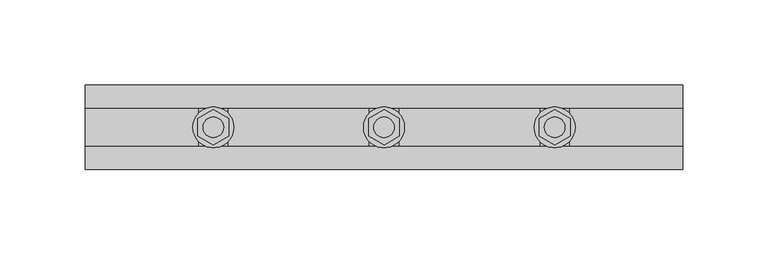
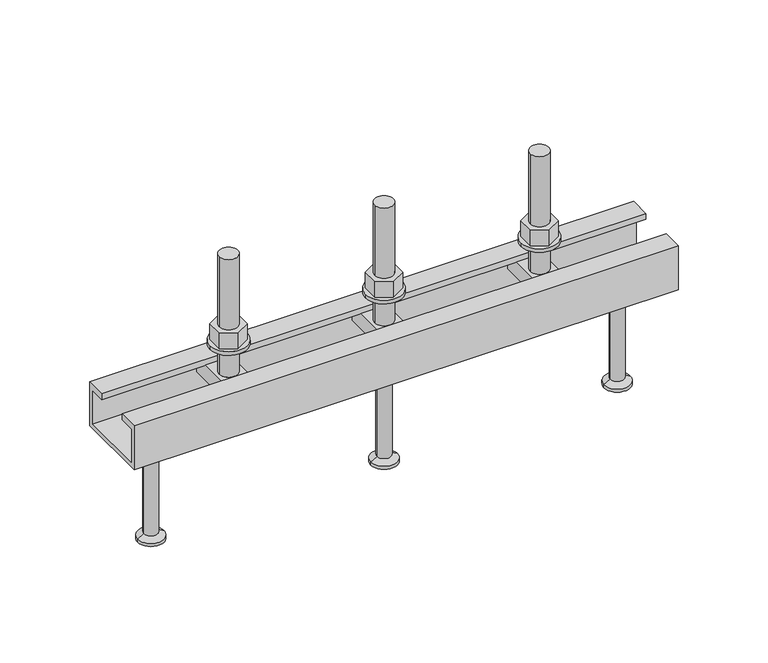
"""IFC4 building model written with IfcOpenShell, lengths in millimetres: fastener geometry, JTA-W JORDAHL® AnchorChannels : JTA-W L=350 mm."""

from ifc_helpers import new_model, si_unit, point, frame, frame_2d, origin, place, context, project, spatial, polyline, circle_curve, trimmed, segment, composite_curve, outline, extrude, source, transform, mapped, element, save
from ifc_brep_helpers import plane_surface, cylinder_surface, revolved_surface, advanced_brep


def fastener_be18af22(model_context):
    return source(origin(), model_context, "Body", "SolidModel", [
        extrude(outline(polyline([(175.0, -10.3923048), (166.0, -5.1961524), (166.0, 5.1961524), (175.0, 10.3923048), (184.0, 5.1961524), (184.0, -5.1961524), (175.0, -10.3923048)]), holes=[composite_curve([segment(trimmed(circle_curve(frame_2d((175.0, 0.0)), 6.0), [point((169.0, 0.0))], [point((181.0, 0.0))], True, "CARTESIAN"), True, "CONTINUOUS"), segment(trimmed(circle_curve(frame_2d((175.0, 0.0)), 6.0), [point((181.0, 0.0))], [point((169.0, 0.0))], True, "CARTESIAN"), True, "CONTINUOUS")], self_intersect=False)]), frame((0.0, 0.0, 17.5), z_axis=(0.0, 0.0, 1.0), x_axis=(1.0, 0.0, 0.0)), (0.0, 0.0, 1.0), 10.8),
        extrude(outline(composite_curve([segment(trimmed(circle_curve(frame_2d((175.0, 0.0)), 12.0), [point((163.0, 0.0))], [point((187.0, 0.0))], False, "CARTESIAN"), True, "CONTINUOUS"), segment(trimmed(circle_curve(frame_2d((175.0, 0.0)), 12.0), [point((187.0, 0.0))], [point((163.0, 0.0))], False, "CARTESIAN"), True, "CONTINUOUS")], self_intersect=False), holes=[composite_curve([segment(trimmed(circle_curve(frame_2d((175.0, 0.0)), 6.5), [point((168.5, 0.0))], [point((181.5, 0.0))], True, "CARTESIAN"), True, "CONTINUOUS"), segment(trimmed(circle_curve(frame_2d((175.0, 0.0)), 6.5), [point((181.5, 0.0))], [point((168.5, 0.0))], True, "CARTESIAN"), True, "CONTINUOUS")], self_intersect=False)]), frame((0.0, 0.0, 15.0), z_axis=(0.0, 0.0, 1.0), x_axis=(1.0, 0.0, 0.0)), (0.0, 0.0, 1.0), 2.5),
        advanced_brep(
        [(183.5, -20.7, -4.0), (183.5, -20.7, -14.0), (183.5, 20.7, -14.0), (183.5, 20.7, -4.0), (166.5, -20.7, -4.0), (166.5, 20.7, -4.0), (166.5, 20.7, -14.0), (166.5, -20.7, -14.0), (181.0, 0.0, -4.0), (169.0, 0.0, -4.0), (169.0, 0.0, 76.0), (181.0, 0.0, 76.0)],
        [
            (0, 1),
            (1, 2),
            (2, 3),
            (3, 0),
            (4, 5),
            (5, 6),
            (6, 7),
            (7, 4),
            (3, 5),
            (4, 0),
            (8, 9, circle_curve(frame((175.0, 0.0, -4.0), z_axis=(0.0, 0.0, -1.0), x_axis=(1.0, 0.0, 0.0)), 6.0)),
            (9, 8, circle_curve(frame((175.0, 0.0, -4.0), z_axis=(0.0, 0.0, -1.0), x_axis=(1.0, 0.0, 0.0)), 6.0)),
            (2, 6),
            (1, 7),
            (10, 11, circle_curve(frame((175.0, 0.0, 76.0), z_axis=(0.0, 0.0, 1.0), x_axis=(1.0, 0.0, 0.0)), 6.0)),
            (11, 10, circle_curve(frame((175.0, 0.0, 76.0), z_axis=(0.0, 0.0, 1.0), x_axis=(1.0, 0.0, 0.0)), 6.0)),
            (11, 8),
            (9, 10),
        ],
        [
            plane_surface(frame((183.5, 20.7, -4.0), z_axis=(1.0, 0.0, 0.0), x_axis=(0.0, 1.0, 0.0))),
            plane_surface(frame((166.5, 20.7, -4.0), z_axis=(-1.0, 0.0, 0.0), x_axis=(0.0, -1.0, 0.0))),
            plane_surface(frame((183.5, -20.7, -4.0), z_axis=(0.0, 0.0, 1.0), x_axis=(-1.0, 0.0, 0.0))),
            plane_surface(frame((183.5, 20.7, -4.0), z_axis=(0.0, 1.0, 0.0), x_axis=(-1.0, 0.0, 0.0))),
            plane_surface(frame((183.5, 20.7, -14.0), z_axis=(0.0, 0.0, -1.0), x_axis=(-1.0, 0.0, 0.0))),
            plane_surface(frame((183.5, -20.7, -14.0), z_axis=(0.0, -1.0, 0.0), x_axis=(-1.0, 0.0, 0.0))),
            plane_surface(frame((181.0, 0.0, 76.0), z_axis=(0.0, 0.0, 1.0), x_axis=(0.0, -1.0, 0.0))),
            cylinder_surface(frame((175.0, 0.0, -4.0), z_axis=(0.0, 0.0, 1.0), x_axis=(1.0, 0.0, 0.0)), 6.0),
        ],
        [
            (0, [[1, 2, 3, 4]]),
            (1, [[5, 6, 7, 8]]),
            (2, [[9, -5, 10, -4], [11, 12]]),
            (3, [[13, -6, -9, -3]]),
            (4, [[14, -7, -13, -2]]),
            (5, [[-10, -8, -14, -1]]),
            (6, [[15, 16]]),
            (7, [[17, -12, 18, -16]]),
            (7, [[-18, -11, -17, -15]]),
        ],
    ),
        advanced_brep(
        [(175.0, 0.0, -30.0), (161.5, 0.0, -30.0), (188.5, 0.0, -30.0), (166.5, 0.0, -100.0), (175.0, 0.0, -100.0), (183.5, 0.0, -100.0), (166.5, 0.0, -98.0), (183.5, 0.0, -98.0), (170.5, 0.0, -95.6905989), (179.5, 0.0, -95.6905989), (170.5, 0.0, -32.5), (179.5, 0.0, -32.5)],
        [
            (0, 1),
            (1, 2, circle_curve(frame((175.0, 0.0, -30.0), z_axis=(0.0, 0.0, 1.0), x_axis=(1.0, 0.0, 0.0)), 13.5)),
            (2, 0),
            (2, 1, circle_curve(frame((175.0, 0.0, -30.0), z_axis=(0.0, 0.0, 1.0), x_axis=(1.0, 0.0, 0.0)), 13.5)),
            (3, 4),
            (4, 5),
            (5, 3, circle_curve(frame((175.0, 0.0, -100.0), z_axis=(0.0, 0.0, -1.0), x_axis=(1.0, 0.0, 0.0)), 8.5)),
            (3, 5, circle_curve(frame((175.0, 0.0, -100.0), z_axis=(0.0, 0.0, -1.0), x_axis=(1.0, 0.0, 0.0)), 8.5)),
            (6, 3),
            (5, 7),
            (7, 6, circle_curve(frame((175.0, 0.0, -98.0), z_axis=(0.0, 0.0, -1.0), x_axis=(1.0, 0.0, 0.0)), 8.5)),
            (6, 7, circle_curve(frame((175.0, 0.0, -98.0), z_axis=(0.0, 0.0, -1.0), x_axis=(1.0, 0.0, 0.0)), 8.5)),
            (8, 6),
            (7, 9),
            (9, 8, circle_curve(frame((175.0, 0.0, -95.6905989), z_axis=(0.0, 0.0, -1.0), x_axis=(1.0, 0.0, 0.0)), 4.5)),
            (8, 9, circle_curve(frame((175.0, 0.0, -95.6905989), z_axis=(0.0, 0.0, -1.0), x_axis=(1.0, 0.0, 0.0)), 4.5)),
            (10, 8),
            (9, 11),
            (11, 10, circle_curve(frame((175.0, 0.0, -32.5), z_axis=(0.0, 0.0, -1.0), x_axis=(1.0, 0.0, 0.0)), 4.5)),
            (10, 11, circle_curve(frame((175.0, 0.0, -32.5), z_axis=(0.0, 0.0, -1.0), x_axis=(1.0, 0.0, 0.0)), 4.5)),
            (1, 10),
            (11, 2),
        ],
        [
            plane_surface(frame((175.0, 0.0, -30.0), z_axis=(0.0, 0.0, 1.0), x_axis=(1.0, 0.0, 0.0))),
            plane_surface(frame((175.0, 0.0, -100.0), z_axis=(0.0, 0.0, -1.0), x_axis=(1.0, 0.0, 0.0))),
            cylinder_surface(frame((175.0, 0.0, 2284.3150031), z_axis=(0.0, 0.0, 1.0), x_axis=(1.0, 0.0, 0.0)), 8.5),
            revolved_surface(polyline([(183.5, 0.0, -98.0), (179.5, 0.0, -95.6905989)]), (175.0, 0.0, 2284.3150031), (0.0, 0.0, 1.0)),
            cylinder_surface(frame((175.0, 0.0, 2284.3150031), z_axis=(0.0, 0.0, 1.0), x_axis=(1.0, 0.0, 0.0)), 4.5),
            revolved_surface(polyline([(179.5, 0.0, -32.5), (188.5, 0.0, -30.0)]), (175.0, 0.0, 2284.3150031), (0.0, 0.0, 1.0)),
        ],
        [
            (0, [[1, 2, 3]]),
            (0, [[-3, 4, -1]]),
            (1, [[5, 6, 7]]),
            (1, [[-6, -5, 8]]),
            (2, [[9, -7, 10, 11]]),
            (2, [[-10, -8, -9, 12]]),
            (3, [[13, -11, 14, 15]]),
            (3, [[-14, -12, -13, 16]]),
            (4, [[17, -15, 18, 19]]),
            (4, [[-18, -16, -17, 20]]),
            (5, [[21, -19, 22, -2]]),
            (5, [[-22, -20, -21, -4]]),
        ],
    ),
        extrude(outline(polyline([(275.0, -10.3923048), (266.0, -5.1961524), (266.0, 5.1961524), (275.0, 10.3923048), (284.0, 5.1961524), (284.0, -5.1961524), (275.0, -10.3923048)]), holes=[composite_curve([segment(trimmed(circle_curve(frame_2d((275.0, 0.0)), 6.0), [point((269.0, 0.0))], [point((281.0, 0.0))], True, "CARTESIAN"), True, "CONTINUOUS"), segment(trimmed(circle_curve(frame_2d((275.0, 0.0)), 6.0), [point((281.0, 0.0))], [point((269.0, 0.0))], True, "CARTESIAN"), True, "CONTINUOUS")], self_intersect=False)]), frame((0.0, 0.0, 17.5), z_axis=(0.0, 0.0, 1.0), x_axis=(1.0, 0.0, 0.0)), (0.0, 0.0, 1.0), 10.8),
        extrude(outline(composite_curve([segment(trimmed(circle_curve(frame_2d((275.0, 0.0)), 12.0), [point((263.0, 0.0))], [point((287.0, 0.0))], False, "CARTESIAN"), True, "CONTINUOUS"), segment(trimmed(circle_curve(frame_2d((275.0, 0.0)), 12.0), [point((287.0, 0.0))], [point((263.0, 0.0))], False, "CARTESIAN"), True, "CONTINUOUS")], self_intersect=False), holes=[composite_curve([segment(trimmed(circle_curve(frame_2d((275.0, 0.0)), 6.5), [point((268.5, 0.0))], [point((281.5, 0.0))], True, "CARTESIAN"), True, "CONTINUOUS"), segment(trimmed(circle_curve(frame_2d((275.0, 0.0)), 6.5), [point((281.5, 0.0))], [point((268.5, 0.0))], True, "CARTESIAN"), True, "CONTINUOUS")], self_intersect=False)]), frame((0.0, 0.0, 15.0), z_axis=(0.0, 0.0, 1.0), x_axis=(1.0, 0.0, 0.0)), (0.0, 0.0, 1.0), 2.5),
        extrude(outline(polyline([(75.0, -10.3923048), (66.0, -5.1961524), (66.0, 5.1961524), (75.0, 10.3923048), (84.0, 5.1961524), (84.0, -5.1961524), (75.0, -10.3923048)]), holes=[composite_curve([segment(trimmed(circle_curve(frame_2d((75.0, 0.0)), 6.0), [point((69.0, 0.0))], [point((81.0, 0.0))], True, "CARTESIAN"), True, "CONTINUOUS"), segment(trimmed(circle_curve(frame_2d((75.0, 0.0)), 6.0), [point((81.0, 0.0))], [point((69.0, 0.0))], True, "CARTESIAN"), True, "CONTINUOUS")], self_intersect=False)]), frame((0.0, 0.0, 17.5), z_axis=(0.0, 0.0, 1.0), x_axis=(1.0, 0.0, 0.0)), (0.0, 0.0, 1.0), 10.8),
        extrude(outline(composite_curve([segment(trimmed(circle_curve(frame_2d((75.0, 0.0)), 12.0), [point((63.0, 0.0))], [point((87.0, 0.0))], False, "CARTESIAN"), True, "CONTINUOUS"), segment(trimmed(circle_curve(frame_2d((75.0, 0.0)), 12.0), [point((87.0, 0.0))], [point((63.0, 0.0))], False, "CARTESIAN"), True, "CONTINUOUS")], self_intersect=False), holes=[composite_curve([segment(trimmed(circle_curve(frame_2d((75.0, 0.0)), 6.5), [point((68.5, 0.0))], [point((81.5, 0.0))], True, "CARTESIAN"), True, "CONTINUOUS"), segment(trimmed(circle_curve(frame_2d((75.0, 0.0)), 6.5), [point((81.5, 0.0))], [point((68.5, 0.0))], True, "CARTESIAN"), True, "CONTINUOUS")], self_intersect=False)]), frame((0.0, 0.0, 15.0), z_axis=(0.0, 0.0, 1.0), x_axis=(1.0, 0.0, 0.0)), (0.0, 0.0, 1.0), 2.5),
        advanced_brep(
        [(283.5, -20.7, -4.0), (283.5, -20.7, -14.0), (283.5, 20.7, -14.0), (283.5, 20.7, -4.0), (266.5, -20.7, -4.0), (266.5, 20.7, -4.0), (266.5, 20.7, -14.0), (266.5, -20.7, -14.0), (281.0, 0.0, -4.0), (269.0, 0.0, -4.0), (269.0, 0.0, 76.0), (281.0, 0.0, 76.0)],
        [
            (0, 1),
            (1, 2),
            (2, 3),
            (3, 0),
            (4, 5),
            (5, 6),
            (6, 7),
            (7, 4),
            (3, 5),
            (4, 0),
            (8, 9, circle_curve(frame((275.0, 0.0, -4.0), z_axis=(0.0, 0.0, -1.0), x_axis=(1.0, 0.0, 0.0)), 6.0)),
            (9, 8, circle_curve(frame((275.0, 0.0, -4.0), z_axis=(0.0, 0.0, -1.0), x_axis=(1.0, 0.0, 0.0)), 6.0)),
            (2, 6),
            (1, 7),
            (10, 11, circle_curve(frame((275.0, 0.0, 76.0), z_axis=(0.0, 0.0, 1.0), x_axis=(1.0, 0.0, 0.0)), 6.0)),
            (11, 10, circle_curve(frame((275.0, 0.0, 76.0), z_axis=(0.0, 0.0, 1.0), x_axis=(1.0, 0.0, 0.0)), 6.0)),
            (11, 8),
            (9, 10),
        ],
        [
            plane_surface(frame((283.5, 20.7, -4.0), z_axis=(1.0, 0.0, 0.0), x_axis=(0.0, 1.0, 0.0))),
            plane_surface(frame((266.5, 20.7, -4.0), z_axis=(-1.0, 0.0, 0.0), x_axis=(0.0, -1.0, 0.0))),
            plane_surface(frame((283.5, -20.7, -4.0), z_axis=(0.0, 0.0, 1.0), x_axis=(-1.0, 0.0, 0.0))),
            plane_surface(frame((283.5, 20.7, -4.0), z_axis=(0.0, 1.0, 0.0), x_axis=(-1.0, 0.0, 0.0))),
            plane_surface(frame((283.5, 20.7, -14.0), z_axis=(0.0, 0.0, -1.0), x_axis=(-1.0, 0.0, 0.0))),
            plane_surface(frame((283.5, -20.7, -14.0), z_axis=(0.0, -1.0, 0.0), x_axis=(-1.0, 0.0, 0.0))),
            plane_surface(frame((281.0, 0.0, 76.0), z_axis=(0.0, 0.0, 1.0), x_axis=(0.0, -1.0, 0.0))),
            cylinder_surface(frame((275.0, 0.0, -4.0), z_axis=(0.0, 0.0, 1.0), x_axis=(1.0, 0.0, 0.0)), 6.0),
        ],
        [
            (0, [[1, 2, 3, 4]]),
            (1, [[5, 6, 7, 8]]),
            (2, [[9, -5, 10, -4], [11, 12]]),
            (3, [[13, -6, -9, -3]]),
            (4, [[14, -7, -13, -2]]),
            (5, [[-10, -8, -14, -1]]),
            (6, [[15, 16]]),
            (7, [[17, -12, 18, -16]]),
            (7, [[-18, -11, -17, -15]]),
        ],
    ),
        advanced_brep(
        [(83.5, -20.7, -4.0), (83.5, -20.7, -14.0), (83.5, 20.7, -14.0), (83.5, 20.7, -4.0), (66.5, -20.7, -4.0), (66.5, 20.7, -4.0), (66.5, 20.7, -14.0), (66.5, -20.7, -14.0), (81.0, 0.0, -4.0), (69.0, 0.0, -4.0), (69.0, 0.0, 76.0), (81.0, 0.0, 76.0)],
        [
            (0, 1),
            (1, 2),
            (2, 3),
            (3, 0),
            (4, 5),
            (5, 6),
            (6, 7),
            (7, 4),
            (3, 5),
            (4, 0),
            (8, 9, circle_curve(frame((75.0, 0.0, -4.0), z_axis=(0.0, 0.0, -1.0), x_axis=(1.0, 0.0, 0.0)), 6.0)),
            (9, 8, circle_curve(frame((75.0, 0.0, -4.0), z_axis=(0.0, 0.0, -1.0), x_axis=(1.0, 0.0, 0.0)), 6.0)),
            (2, 6),
            (1, 7),
            (10, 11, circle_curve(frame((75.0, 0.0, 76.0), z_axis=(0.0, 0.0, 1.0), x_axis=(1.0, 0.0, 0.0)), 6.0)),
            (11, 10, circle_curve(frame((75.0, 0.0, 76.0), z_axis=(0.0, 0.0, 1.0), x_axis=(1.0, 0.0, 0.0)), 6.0)),
            (11, 8),
            (9, 10),
        ],
        [
            plane_surface(frame((83.5, 20.7, -4.0), z_axis=(1.0, 0.0, 0.0), x_axis=(0.0, 1.0, 0.0))),
            plane_surface(frame((66.5, 20.7, -4.0), z_axis=(-1.0, 0.0, 0.0), x_axis=(0.0, -1.0, 0.0))),
            plane_surface(frame((83.5, -20.7, -4.0), z_axis=(0.0, 0.0, 1.0), x_axis=(-1.0, 0.0, 0.0))),
            plane_surface(frame((83.5, 20.7, -4.0), z_axis=(0.0, 1.0, 0.0), x_axis=(-1.0, 0.0, 0.0))),
            plane_surface(frame((83.5, 20.7, -14.0), z_axis=(0.0, 0.0, -1.0), x_axis=(-1.0, 0.0, 0.0))),
            plane_surface(frame((83.5, -20.7, -14.0), z_axis=(0.0, -1.0, 0.0), x_axis=(-1.0, 0.0, 0.0))),
            plane_surface(frame((81.0, 0.0, 76.0), z_axis=(0.0, 0.0, 1.0), x_axis=(0.0, -1.0, 0.0))),
            cylinder_surface(frame((75.0, 0.0, -4.0), z_axis=(0.0, 0.0, 1.0), x_axis=(1.0, 0.0, 0.0)), 6.0),
        ],
        [
            (0, [[1, 2, 3, 4]]),
            (1, [[5, 6, 7, 8]]),
            (2, [[9, -5, 10, -4], [11, 12]]),
            (3, [[13, -6, -9, -3]]),
            (4, [[14, -7, -13, -2]]),
            (5, [[-10, -8, -14, -1]]),
            (6, [[15, 16]]),
            (7, [[17, -12, 18, -16]]),
            (7, [[-18, -11, -17, -15]]),
        ],
    ),
        advanced_brep(
        [(325.0, 0.0, -30.0), (311.5, 0.0, -30.0), (338.5, 0.0, -30.0), (316.5, 0.0, -100.0), (325.0, 0.0, -100.0), (333.5, 0.0, -100.0), (316.5, 0.0, -98.0), (333.5, 0.0, -98.0), (320.5, 0.0, -95.6905989), (329.5, 0.0, -95.6905989), (320.5, 0.0, -32.5), (329.5, 0.0, -32.5)],
        [
            (0, 1),
            (1, 2, circle_curve(frame((325.0, 0.0, -30.0), z_axis=(0.0, 0.0, 1.0), x_axis=(1.0, 0.0, 0.0)), 13.5)),
            (2, 0),
            (2, 1, circle_curve(frame((325.0, 0.0, -30.0), z_axis=(0.0, 0.0, 1.0), x_axis=(1.0, 0.0, 0.0)), 13.5)),
            (3, 4),
            (4, 5),
            (5, 3, circle_curve(frame((325.0, 0.0, -100.0), z_axis=(0.0, 0.0, -1.0), x_axis=(1.0, 0.0, 0.0)), 8.5)),
            (3, 5, circle_curve(frame((325.0, 0.0, -100.0), z_axis=(0.0, 0.0, -1.0), x_axis=(1.0, 0.0, 0.0)), 8.5)),
            (6, 3),
            (5, 7),
            (7, 6, circle_curve(frame((325.0, 0.0, -98.0), z_axis=(0.0, 0.0, -1.0), x_axis=(1.0, 0.0, 0.0)), 8.5)),
            (6, 7, circle_curve(frame((325.0, 0.0, -98.0), z_axis=(0.0, 0.0, -1.0), x_axis=(1.0, 0.0, 0.0)), 8.5)),
            (8, 6),
            (7, 9),
            (9, 8, circle_curve(frame((325.0, 0.0, -95.6905989), z_axis=(0.0, 0.0, -1.0), x_axis=(1.0, 0.0, 0.0)), 4.5)),
            (8, 9, circle_curve(frame((325.0, 0.0, -95.6905989), z_axis=(0.0, 0.0, -1.0), x_axis=(1.0, 0.0, 0.0)), 4.5)),
            (10, 8),
            (9, 11),
            (11, 10, circle_curve(frame((325.0, 0.0, -32.5), z_axis=(0.0, 0.0, -1.0), x_axis=(1.0, 0.0, 0.0)), 4.5)),
            (10, 11, circle_curve(frame((325.0, 0.0, -32.5), z_axis=(0.0, 0.0, -1.0), x_axis=(1.0, 0.0, 0.0)), 4.5)),
            (1, 10),
            (11, 2),
        ],
        [
            plane_surface(frame((325.0, 0.0, -30.0), z_axis=(0.0, 0.0, 1.0), x_axis=(1.0, 0.0, 0.0))),
            plane_surface(frame((325.0, 0.0, -100.0), z_axis=(0.0, 0.0, -1.0), x_axis=(1.0, 0.0, 0.0))),
            cylinder_surface(frame((325.0, 0.0, 2284.3150031), z_axis=(0.0, 0.0, 1.0), x_axis=(1.0, 0.0, 0.0)), 8.5),
            revolved_surface(polyline([(333.5, 0.0, -98.0), (329.5, 0.0, -95.6905989)]), (325.0, 0.0, 2284.3150031), (0.0, 0.0, 1.0)),
            cylinder_surface(frame((325.0, 0.0, 2284.3150031), z_axis=(0.0, 0.0, 1.0), x_axis=(1.0, 0.0, 0.0)), 4.5),
            revolved_surface(polyline([(329.5, 0.0, -32.5), (338.5, 0.0, -30.0)]), (325.0, 0.0, 2284.3150031), (0.0, 0.0, 1.0)),
        ],
        [
            (0, [[1, 2, 3]]),
            (0, [[-3, 4, -1]]),
            (1, [[5, 6, 7]]),
            (1, [[-6, -5, 8]]),
            (2, [[9, -7, 10, 11]]),
            (2, [[-10, -8, -9, 12]]),
            (3, [[13, -11, 14, 15]]),
            (3, [[-14, -12, -13, 16]]),
            (4, [[17, -15, 18, 19]]),
            (4, [[-18, -16, -17, 20]]),
            (5, [[21, -19, 22, -2]]),
            (5, [[-22, -20, -21, -4]]),
        ],
    ),
        advanced_brep(
        [(25.0, 0.0, -30.0), (11.5, 0.0, -30.0), (38.5, 0.0, -30.0), (16.5, 0.0, -100.0), (25.0, 0.0, -100.0), (33.5, 0.0, -100.0), (16.5, 0.0, -98.0), (33.5, 0.0, -98.0), (20.5, 0.0, -95.6905989), (29.5, 0.0, -95.6905989), (20.5, 0.0, -32.5), (29.5, 0.0, -32.5)],
        [
            (0, 1),
            (1, 2, circle_curve(frame((25.0, 0.0, -30.0), z_axis=(0.0, 0.0, 1.0), x_axis=(1.0, 0.0, 0.0)), 13.5)),
            (2, 0),
            (2, 1, circle_curve(frame((25.0, 0.0, -30.0), z_axis=(0.0, 0.0, 1.0), x_axis=(1.0, 0.0, 0.0)), 13.5)),
            (3, 4),
            (4, 5),
            (5, 3, circle_curve(frame((25.0, 0.0, -100.0), z_axis=(0.0, 0.0, -1.0), x_axis=(1.0, 0.0, 0.0)), 8.5)),
            (3, 5, circle_curve(frame((25.0, 0.0, -100.0), z_axis=(0.0, 0.0, -1.0), x_axis=(1.0, 0.0, 0.0)), 8.5)),
            (6, 3),
            (5, 7),
            (7, 6, circle_curve(frame((25.0, 0.0, -98.0), z_axis=(0.0, 0.0, -1.0), x_axis=(1.0, 0.0, 0.0)), 8.5)),
            (6, 7, circle_curve(frame((25.0, 0.0, -98.0), z_axis=(0.0, 0.0, -1.0), x_axis=(1.0, 0.0, 0.0)), 8.5)),
            (8, 6),
            (7, 9),
            (9, 8, circle_curve(frame((25.0, 0.0, -95.6905989), z_axis=(0.0, 0.0, -1.0), x_axis=(1.0, 0.0, 0.0)), 4.5)),
            (8, 9, circle_curve(frame((25.0, 0.0, -95.6905989), z_axis=(0.0, 0.0, -1.0), x_axis=(1.0, 0.0, 0.0)), 4.5)),
            (10, 8),
            (9, 11),
            (11, 10, circle_curve(frame((25.0, 0.0, -32.5), z_axis=(0.0, 0.0, -1.0), x_axis=(1.0, 0.0, 0.0)), 4.5)),
            (10, 11, circle_curve(frame((25.0, 0.0, -32.5), z_axis=(0.0, 0.0, -1.0), x_axis=(1.0, 0.0, 0.0)), 4.5)),
            (1, 10),
            (11, 2),
        ],
        [
            plane_surface(frame((25.0, 0.0, -30.0), z_axis=(0.0, 0.0, 1.0), x_axis=(1.0, 0.0, 0.0))),
            plane_surface(frame((25.0, 0.0, -100.0), z_axis=(0.0, 0.0, -1.0), x_axis=(1.0, 0.0, 0.0))),
            cylinder_surface(frame((25.0, 0.0, 2284.3150031), z_axis=(0.0, 0.0, 1.0), x_axis=(1.0, 0.0, 0.0)), 8.5),
            revolved_surface(polyline([(33.5, 0.0, -98.0), (29.5, 0.0, -95.6905989)]), (25.0, 0.0, 2284.3150031), (0.0, 0.0, 1.0)),
            cylinder_surface(frame((25.0, 0.0, 2284.3150031), z_axis=(0.0, 0.0, 1.0), x_axis=(1.0, 0.0, 0.0)), 4.5),
            revolved_surface(polyline([(29.5, 0.0, -32.5), (38.5, 0.0, -30.0)]), (25.0, 0.0, 2284.3150031), (0.0, 0.0, 1.0)),
        ],
        [
            (0, [[1, 2, 3]]),
            (0, [[-3, 4, -1]]),
            (1, [[5, 6, 7]]),
            (1, [[-6, -5, 8]]),
            (2, [[9, -7, 10, 11]]),
            (2, [[-10, -8, -9, 12]]),
            (3, [[13, -11, 14, 15]]),
            (3, [[-14, -12, -13, 16]]),
            (4, [[17, -15, 18, 19]]),
            (4, [[-18, -16, -17, 20]]),
            (5, [[21, -19, 22, -2]]),
            (5, [[-22, -20, -21, -4]]),
        ],
    ),
        extrude(outline(polyline([(-24.75, 0.0), (-11.25, 0.0), (-11.25, -4.0), (-21.95, -4.0), (-21.95, -27.2), (21.95, -27.2), (21.95, -4.0), (11.25, -4.0), (11.25, 0.0), (24.75, 0.0), (24.75, -30.0), (-24.75, -30.0), (-24.75, 0.0)])), frame((0.0, 0.0, 0.0), z_axis=(1.0, 0.0, 0.0), x_axis=(0.0, 1.0, 0.0)), (0.0, 0.0, 1.0), 350.0),
    ])


if __name__ == "__main__":
    model = new_model("IFC4")
    model_context = context("Model", 3, world=origin())
    ifc_project = project(units=[si_unit("LENGTHUNIT", "METRE", prefix="MILLI")], contexts=[model_context])
    site = spatial("IfcSite", under=ifc_project)
    building = spatial("IfcBuilding", under=site)
    placement = place(None, origin())
    fastener_shape = fastener_be18af22(model_context)
    element("IfcFastener", 1, ObjectType="JTA-W JORDAHL® AnchorChannels : JTA-W L=350 mm", at=placement, inside=building, context=model_context, shape_type="MappedRepresentation", body=[
        mapped(fastener_shape, transform((0.0, 0.0, 0.0), x_axis=(1.0, 0.0, 0.0), y_axis=(0.0, 1.0, 0.0), z_axis=(0.0, 0.0, 1.0))),
    ])
    save(model, "model.ifc")
